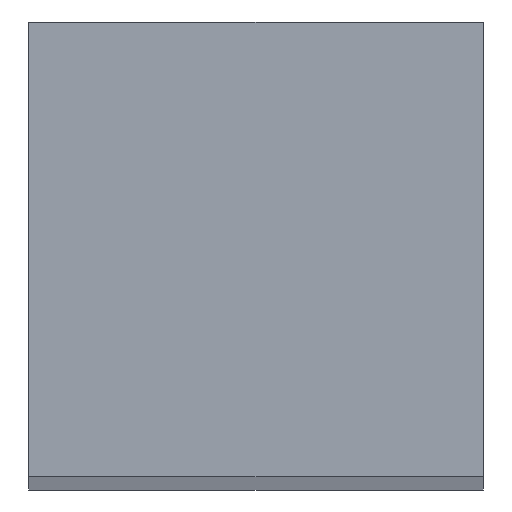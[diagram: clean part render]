
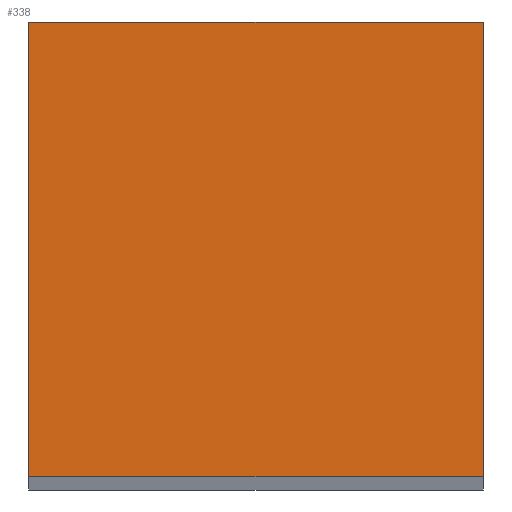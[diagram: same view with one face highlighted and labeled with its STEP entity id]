
A CAD part, top view. The second image highlights one B-rep face of the part: STEP entity #338.
In plain terms, the highlighted planar face has unit normal (0, 0, 1).
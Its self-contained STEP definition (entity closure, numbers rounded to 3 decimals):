
#24 = VERTEX_POINT('',#25);
#25 = CARTESIAN_POINT('',(-5.5,-5.5,193.));
#32 = PLANE('',#33);
#33 = AXIS2_PLACEMENT_3D('',#34,#35,#36);
#34 = CARTESIAN_POINT('',(-5.5,-5.5,10.));
#35 = DIRECTION('',(0.,1.,0.));
#36 = DIRECTION('',(1.,0.,0.));
#44 = PLANE('',#45);
#45 = AXIS2_PLACEMENT_3D('',#46,#47,#48);
#46 = CARTESIAN_POINT('',(-5.5,5.5,10.));
#47 = DIRECTION('',(1.,0.,-0.));
#48 = DIRECTION('',(0.,-1.,0.));
#56 = EDGE_CURVE('',#24,#57,#59,.T.);
#57 = VERTEX_POINT('',#58);
#58 = CARTESIAN_POINT('',(5.5,-5.5,193.));
#59 = SURFACE_CURVE('',#60,(#64,#71),.PCURVE_S1.);
#60 = LINE('',#61,#62);
#61 = CARTESIAN_POINT('',(-5.5,-5.5,193.));
#62 = VECTOR('',#63,1.);
#63 = DIRECTION('',(1.,0.,0.));
#64 = PCURVE('',#32,#65);
#65 = DEFINITIONAL_REPRESENTATION('',(#66),#70);
#66 = LINE('',#67,#68);
#67 = CARTESIAN_POINT('',(0.,-183.));
#68 = VECTOR('',#69,1.);
#69 = DIRECTION('',(1.,0.));
#70 = ( GEOMETRIC_REPRESENTATION_CONTEXT(2) 
PARAMETRIC_REPRESENTATION_CONTEXT() REPRESENTATION_CONTEXT('2D SPACE',''
  ) );
#71 = PCURVE('',#72,#77);
#72 = PLANE('',#73);
#73 = AXIS2_PLACEMENT_3D('',#74,#75,#76);
#74 = CARTESIAN_POINT('',(0.,0.,193.));
#75 = DIRECTION('',(0.,0.,1.));
#76 = DIRECTION('',(1.,0.,-0.));
#77 = DEFINITIONAL_REPRESENTATION('',(#78),#82);
#78 = LINE('',#79,#80);
#79 = CARTESIAN_POINT('',(-5.5,-5.5));
#80 = VECTOR('',#81,1.);
#81 = DIRECTION('',(1.,0.));
#82 = ( GEOMETRIC_REPRESENTATION_CONTEXT(2) 
PARAMETRIC_REPRESENTATION_CONTEXT() REPRESENTATION_CONTEXT('2D SPACE',''
  ) );
#100 = PLANE('',#101);
#101 = AXIS2_PLACEMENT_3D('',#102,#103,#104);
#102 = CARTESIAN_POINT('',(5.5,-5.5,10.));
#103 = DIRECTION('',(-1.,0.,0.));
#104 = DIRECTION('',(0.,1.,0.));
#142 = EDGE_CURVE('',#57,#143,#145,.T.);
#143 = VERTEX_POINT('',#144);
#144 = CARTESIAN_POINT('',(5.5,5.5,193.));
#145 = SURFACE_CURVE('',#146,(#150,#157),.PCURVE_S1.);
#146 = LINE('',#147,#148);
#147 = CARTESIAN_POINT('',(5.5,-5.5,193.));
#148 = VECTOR('',#149,1.);
#149 = DIRECTION('',(0.,1.,0.));
#150 = PCURVE('',#100,#151);
#151 = DEFINITIONAL_REPRESENTATION('',(#152),#156);
#152 = LINE('',#153,#154);
#153 = CARTESIAN_POINT('',(0.,-183.));
#154 = VECTOR('',#155,1.);
#155 = DIRECTION('',(1.,0.));
#156 = ( GEOMETRIC_REPRESENTATION_CONTEXT(2) 
PARAMETRIC_REPRESENTATION_CONTEXT() REPRESENTATION_CONTEXT('2D SPACE',''
  ) );
#157 = PCURVE('',#72,#158);
#158 = DEFINITIONAL_REPRESENTATION('',(#159),#163);
#159 = LINE('',#160,#161);
#160 = CARTESIAN_POINT('',(5.5,-5.5));
#161 = VECTOR('',#162,1.);
#162 = DIRECTION('',(0.,1.));
#163 = ( GEOMETRIC_REPRESENTATION_CONTEXT(2) 
PARAMETRIC_REPRESENTATION_CONTEXT() REPRESENTATION_CONTEXT('2D SPACE',''
  ) );
#181 = PLANE('',#182);
#182 = AXIS2_PLACEMENT_3D('',#183,#184,#185);
#183 = CARTESIAN_POINT('',(5.5,5.5,10.));
#184 = DIRECTION('',(0.,-1.,0.));
#185 = DIRECTION('',(-1.,0.,0.));
#218 = EDGE_CURVE('',#143,#219,#221,.T.);
#219 = VERTEX_POINT('',#220);
#220 = CARTESIAN_POINT('',(-5.5,5.5,193.));
#221 = SURFACE_CURVE('',#222,(#226,#233),.PCURVE_S1.);
#222 = LINE('',#223,#224);
#223 = CARTESIAN_POINT('',(5.5,5.5,193.));
#224 = VECTOR('',#225,1.);
#225 = DIRECTION('',(-1.,0.,0.));
#226 = PCURVE('',#181,#227);
#227 = DEFINITIONAL_REPRESENTATION('',(#228),#232);
#228 = LINE('',#229,#230);
#229 = CARTESIAN_POINT('',(0.,-183.));
#230 = VECTOR('',#231,1.);
#231 = DIRECTION('',(1.,0.));
#232 = ( GEOMETRIC_REPRESENTATION_CONTEXT(2) 
PARAMETRIC_REPRESENTATION_CONTEXT() REPRESENTATION_CONTEXT('2D SPACE',''
  ) );
#233 = PCURVE('',#72,#234);
#234 = DEFINITIONAL_REPRESENTATION('',(#235),#239);
#235 = LINE('',#236,#237);
#236 = CARTESIAN_POINT('',(5.5,5.5));
#237 = VECTOR('',#238,1.);
#238 = DIRECTION('',(-1.,0.));
#239 = ( GEOMETRIC_REPRESENTATION_CONTEXT(2) 
PARAMETRIC_REPRESENTATION_CONTEXT() REPRESENTATION_CONTEXT('2D SPACE',''
  ) );
#289 = EDGE_CURVE('',#219,#24,#290,.T.);
#290 = SURFACE_CURVE('',#291,(#295,#302),.PCURVE_S1.);
#291 = LINE('',#292,#293);
#292 = CARTESIAN_POINT('',(-5.5,5.5,193.));
#293 = VECTOR('',#294,1.);
#294 = DIRECTION('',(0.,-1.,0.));
#295 = PCURVE('',#44,#296);
#296 = DEFINITIONAL_REPRESENTATION('',(#297),#301);
#297 = LINE('',#298,#299);
#298 = CARTESIAN_POINT('',(0.,-183.));
#299 = VECTOR('',#300,1.);
#300 = DIRECTION('',(1.,0.));
#301 = ( GEOMETRIC_REPRESENTATION_CONTEXT(2) 
PARAMETRIC_REPRESENTATION_CONTEXT() REPRESENTATION_CONTEXT('2D SPACE',''
  ) );
#302 = PCURVE('',#72,#303);
#303 = DEFINITIONAL_REPRESENTATION('',(#304),#308);
#304 = LINE('',#305,#306);
#305 = CARTESIAN_POINT('',(-5.5,5.5));
#306 = VECTOR('',#307,1.);
#307 = DIRECTION('',(0.,-1.));
#308 = ( GEOMETRIC_REPRESENTATION_CONTEXT(2) 
PARAMETRIC_REPRESENTATION_CONTEXT() REPRESENTATION_CONTEXT('2D SPACE',''
  ) );
#338 = ADVANCED_FACE('',(#339),#72,.T.);
#339 = FACE_BOUND('',#340,.T.);
#340 = EDGE_LOOP('',(#341,#342,#343,#344));
#341 = ORIENTED_EDGE('',*,*,#56,.T.);
#342 = ORIENTED_EDGE('',*,*,#142,.T.);
#343 = ORIENTED_EDGE('',*,*,#218,.T.);
#344 = ORIENTED_EDGE('',*,*,#289,.T.);
